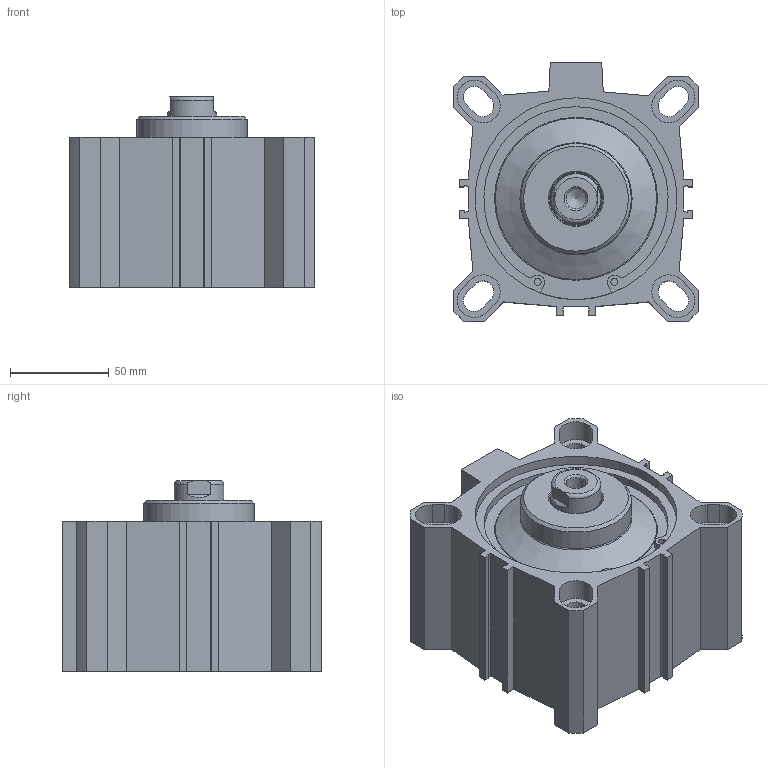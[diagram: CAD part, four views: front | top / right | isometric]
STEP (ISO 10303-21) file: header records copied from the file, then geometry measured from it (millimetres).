
FILE_DESCRIPTION(/* description */ ('Unknown'),/* implementation_level */ '2;1');
FILE_NAME(/* name */ 'FIN 100_20',/* time_stamp */ '2026-05-12T08:47:24+02:00',/* author */ ('Unknown'),/* organization */ ('Unknown'),/* preprocessor_version */ 'ST-DEVELOPER v18.102',/* originating_system */ 'Solid Edge',/* authorisation */ 'Unknown');
FILE_SCHEMA (('AUTOMOTIVE_DESIGN {1 0 10303 214 3 1 1}'));
Length unit declared in the file: millimetre
Products named in the file (5): FIN 100_20; Kolbenstange; Profilrohr; Kit_1; Kit_2
Assembly tree (4 placements, depth 2):
  FIN 100_20
    Kolbenstange
    Profilrohr
    Kit_1
    Kit_2
Bounding box: 124 x 131 x 96.5 mm (x, y, z)
Volume: 727795.3 mm3; surface area: 176493.2 mm2
Topology: 4 solids, 4 shells, 259 faces, 651 edges, 422 vertices
Faces by surface type: plane 130, cylinder 94, cone 24, torus 11
Full cylindrical faces by diameter (mm): 3.5 x4, 5.25 x2, 10.106 x2, 11.445 x4, 25 x1, 25.6 x1, 26.9 x1, 28 x1, 29.8 x1, 30 x1, 56 x1, 80 x1, 100 x2, 101.7 x4, 102.2 x2, 106.2 x2
Entity records: 9415 total; most frequent: CARTESIAN_POINT 1411, DIRECTION 1312, ORIENTED_EDGE 1150, EDGE_CURVE 575, AXIS2_PLACEMENT_3D 485, VERTEX_POINT 410, FACE_BOUND 361, EDGE_LOOP 360
